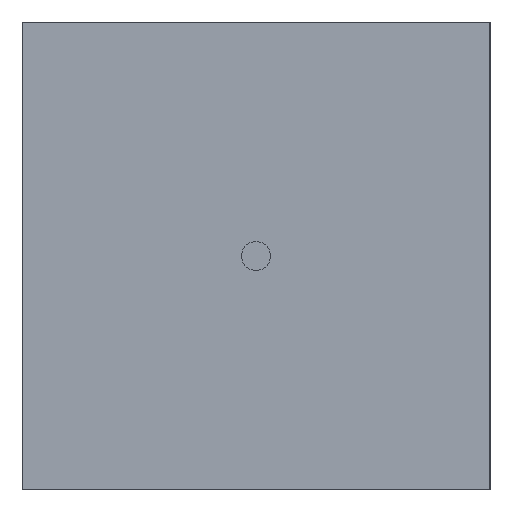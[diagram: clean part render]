
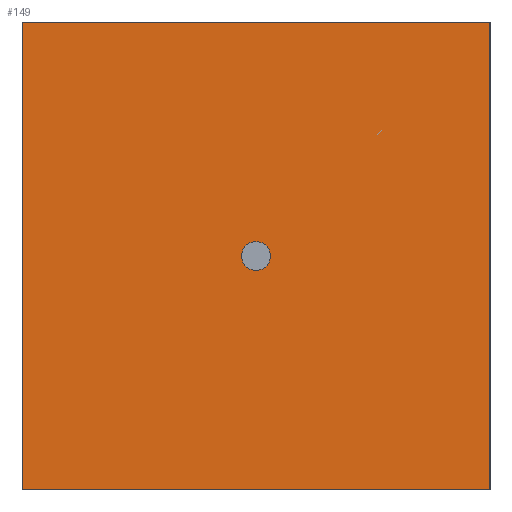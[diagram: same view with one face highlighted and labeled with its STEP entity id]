
A CAD part, left-side view. The second image highlights one B-rep face of the part: STEP entity #149.
In plain terms, the highlighted planar face has unit normal (-1, 0, 0).
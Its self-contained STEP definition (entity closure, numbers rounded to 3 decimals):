
#29=FACE_OUTER_BOUND('',#41,.T.);
#41=EDGE_LOOP('',(#113,#114,#115,#116));
#59=LINE('',#240,#71);
#60=LINE('',#243,#72);
#61=LINE('',#245,#73);
#62=LINE('',#246,#74);
#71=VECTOR('',#191,13.);
#72=VECTOR('',#194,13.);
#73=VECTOR('',#195,13.);
#74=VECTOR('',#196,13.);
#81=VERTEX_POINT('',#236);
#82=VERTEX_POINT('',#238);
#83=VERTEX_POINT('',#242);
#84=VERTEX_POINT('',#244);
#95=EDGE_CURVE('',#81,#82,#59,.T.);
#96=EDGE_CURVE('',#81,#83,#60,.T.);
#97=EDGE_CURVE('',#84,#82,#61,.T.);
#98=EDGE_CURVE('',#83,#84,#62,.T.);
#113=ORIENTED_EDGE('',*,*,#96,.F.);
#114=ORIENTED_EDGE('',*,*,#95,.T.);
#115=ORIENTED_EDGE('',*,*,#97,.F.);
#116=ORIENTED_EDGE('',*,*,#98,.F.);
#139=PLANE('',#165);
#149=ADVANCED_FACE('',(#29),#139,.T.);
#165=AXIS2_PLACEMENT_3D('',#241,#192,#193);
#191=DIRECTION('',(0.,1.,0.));
#192=DIRECTION('center_axis',(-1.,0.,0.));
#193=DIRECTION('ref_axis',(0.,0.,1.));
#194=DIRECTION('',(0.,0.,-1.));
#195=DIRECTION('',(0.,0.,1.));
#196=DIRECTION('',(0.,1.,0.));
#236=CARTESIAN_POINT('',(0.,0.,13.));
#238=CARTESIAN_POINT('',(0.,13.,13.));
#240=CARTESIAN_POINT('',(0.,0.,13.));
#241=CARTESIAN_POINT('Origin',(0.,0.,0.));
#242=CARTESIAN_POINT('',(0.,0.,0.));
#243=CARTESIAN_POINT('',(0.,0.,13.));
#244=CARTESIAN_POINT('',(0.,13.,0.));
#245=CARTESIAN_POINT('',(0.,13.,13.));
#246=CARTESIAN_POINT('',(0.,0.,0.));
